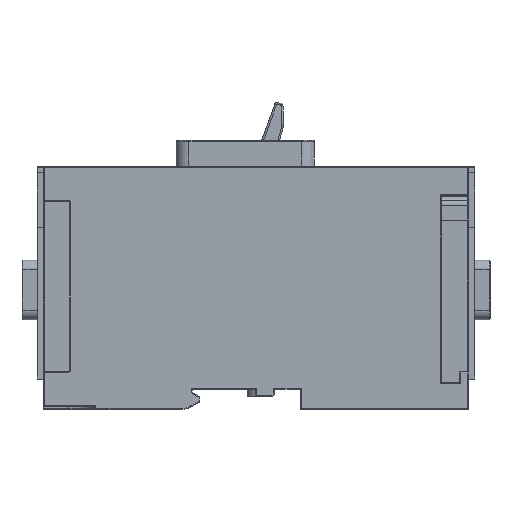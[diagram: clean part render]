
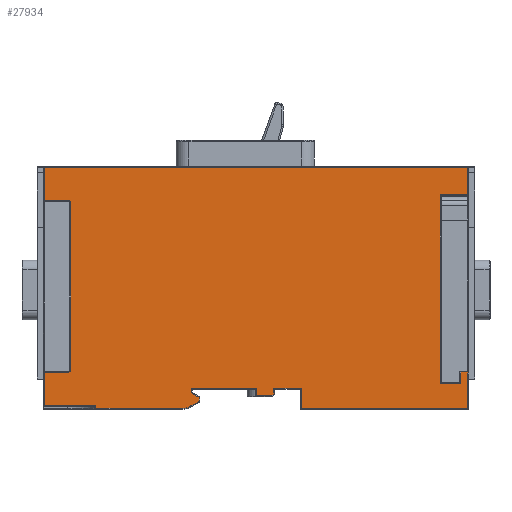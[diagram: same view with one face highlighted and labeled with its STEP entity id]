
A CAD part, left-side view. The second image highlights one B-rep face of the part: STEP entity #27934.
In plain terms, the highlighted planar face has unit normal (-1, 0, 0).
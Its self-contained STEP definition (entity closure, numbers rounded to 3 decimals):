
#3655=CARTESIAN_POINT('',(0.,101.087,5.));
#3656=DIRECTION('',(-1.,0.,0.));
#3657=DIRECTION('',(0.,0.,-1.));
#3658=AXIS2_PLACEMENT_3D('',#3655,#3656,#3657);
#3660=DIRECTION('',(0.,1.,0.));
#3661=VECTOR('',#3660,28.613);
#3662=CARTESIAN_POINT('',(0.,101.087,0.3));
#3663=LINE('',#3662,#3661);
#3664=DIRECTION('',(0.,0.,-1.));
#3665=VECTOR('',#3664,1.);
#3666=CARTESIAN_POINT('',(0.,129.7,1.3));
#3667=LINE('',#3666,#3665);
#3668=DIRECTION('',(0.,-1.,0.));
#3669=VECTOR('',#3668,17.);
#3670=CARTESIAN_POINT('',(0.,146.7,1.3));
#3671=LINE('',#3670,#3669);
#3672=DIRECTION('',(0.,0.,-1.));
#3673=VECTOR('',#3672,11.);
#3674=CARTESIAN_POINT('',(0.,146.7,12.3));
#3675=LINE('',#3674,#3673);
#3676=DIRECTION('',(0.,1.,0.));
#3677=VECTOR('',#3676,8.1);
#3678=CARTESIAN_POINT('',(0.,138.6,12.3));
#3679=LINE('',#3678,#3677);
#3680=CARTESIAN_POINT('',(0.,138.6,12.9));
#3681=DIRECTION('',(1.,0.,0.));
#3682=DIRECTION('',(0.,-1.,0.));
#3683=AXIS2_PLACEMENT_3D('',#3680,#3681,#3682);
#3685=DIRECTION('',(0.,0.,-1.));
#3686=VECTOR('',#3685,55.1);
#3687=CARTESIAN_POINT('',(0.,138.,68.));
#3688=LINE('',#3687,#3686);
#3689=CARTESIAN_POINT('',(0.,138.6,68.));
#3690=DIRECTION('',(1.,0.,0.));
#3691=DIRECTION('',(0.,0.,1.));
#3692=AXIS2_PLACEMENT_3D('',#3689,#3690,#3691);
#3694=DIRECTION('',(0.,-1.,0.));
#3695=VECTOR('',#3694,8.1);
#3696=CARTESIAN_POINT('',(0.,146.7,68.6));
#3697=LINE('',#3696,#3695);
#3698=DIRECTION('',(0.,0.,1.));
#3699=VECTOR('',#3698,11.1);
#3700=CARTESIAN_POINT('',(0.,146.7,68.6));
#3701=LINE('',#3700,#3699);
#3702=DIRECTION('',(0.,1.,0.));
#3703=VECTOR('',#3702,139.4);
#3704=CARTESIAN_POINT('',(0.,7.3,79.7));
#3705=LINE('',#3704,#3703);
#3706=DIRECTION('',(0.,0.,-1.));
#3707=VECTOR('',#3706,9.1);
#3708=CARTESIAN_POINT('',(0.,7.3,79.7));
#3709=LINE('',#3708,#3707);
#3710=DIRECTION('',(0.,-1.,0.));
#3711=VECTOR('',#3710,9.);
#3712=CARTESIAN_POINT('',(0.,16.3,70.6));
#3713=LINE('',#3712,#3711);
#3714=DIRECTION('',(0.,-1.,0.));
#3715=VECTOR('',#3714,6.6);
#3716=CARTESIAN_POINT('',(0.,16.3,8.511));
#3717=LINE('',#3716,#3715);
#3718=DIRECTION('',(0.,0.,-1.));
#3719=VECTOR('',#3718,3.8);
#3720=CARTESIAN_POINT('',(0.,9.7,12.311));
#3721=LINE('',#3720,#3719);
#3722=DIRECTION('',(0.,1.,0.));
#3723=VECTOR('',#3722,2.4);
#3724=CARTESIAN_POINT('',(0.,7.3,12.311));
#3725=LINE('',#3724,#3723);
#3726=DIRECTION('',(0.,0.,1.));
#3727=VECTOR('',#3726,12.011);
#3728=CARTESIAN_POINT('',(0.,7.3,0.3));
#3729=LINE('',#3728,#3727);
#3730=DIRECTION('',(0.,1.,0.));
#3731=VECTOR('',#3730,54.8);
#3732=CARTESIAN_POINT('',(0.,7.3,0.3));
#3733=LINE('',#3732,#3731);
#3734=DIRECTION('',(0.,0.,-1.));
#3735=VECTOR('',#3734,6.596);
#3736=CARTESIAN_POINT('',(0.,62.1,6.896));
#3737=LINE('',#3736,#3735);
#3738=DIRECTION('',(0.,-1.,-0.002));
#3739=VECTOR('',#3738,9.05);
#3740=CARTESIAN_POINT('',(0.,71.15,6.912));
#3741=LINE('',#3740,#3739);
#3742=DIRECTION('',(0.,0.,1.));
#3743=VECTOR('',#3742,1.876);
#3744=CARTESIAN_POINT('',(0.,71.15,5.035));
#3745=LINE('',#3744,#3743);
#3746=DIRECTION('',(0.,-0.707,0.707));
#3747=VECTOR('',#3746,0.883);
#3748=CARTESIAN_POINT('',(0.,71.774,4.411));
#3749=LINE('',#3748,#3747);
#3750=DIRECTION('',(0.,-1.,0.));
#3751=VECTOR('',#3750,5.026);
#3752=CARTESIAN_POINT('',(0.,76.8,4.411));
#3753=LINE('',#3752,#3751);
#3754=DIRECTION('',(0.,0.,-1.));
#3755=VECTOR('',#3754,2.485);
#3756=CARTESIAN_POINT('',(0.,76.8,6.896));
#3757=LINE('',#3756,#3755);
#3758=DIRECTION('',(0.,1.,0.));
#3759=VECTOR('',#3758,21.5);
#3760=CARTESIAN_POINT('',(0.,76.8,6.896));
#3761=LINE('',#3760,#3759);
#3762=DIRECTION('',(0.,0.,1.));
#3763=VECTOR('',#3762,1.455);
#3764=CARTESIAN_POINT('',(0.,98.3,5.441));
#3765=LINE('',#3764,#3763);
#3766=DIRECTION('',(0.,0.854,0.521));
#3767=VECTOR('',#3766,3.005);
#3768=CARTESIAN_POINT('',(0.,95.734,3.876));
#3769=LINE('',#3768,#3767);
#3770=DIRECTION('',(0.,0.,1.));
#3771=VECTOR('',#3770,1.203);
#3772=CARTESIAN_POINT('',(0.,95.734,2.673));
#3773=LINE('',#3772,#3771);
#3774=DIRECTION('',(0.,-0.865,0.502));
#3775=VECTOR('',#3774,3.461);
#3776=CARTESIAN_POINT('',(0.,98.727,0.935));
#3777=LINE('',#3776,#3775);
#3795=CARTESIAN_POINT('',(0.,129.7,1.3));
#13935=DIRECTION('',(0.,0.,1.));
#13936=VECTOR('',#13935,62.089);
#13937=CARTESIAN_POINT('',(0.,16.3,8.511));
#13938=LINE('',#13937,#13936);
#13946=CARTESIAN_POINT('',(0.,16.3,70.6));
#21538=CARTESIAN_POINT('',(0.,7.3,79.7));
#21539=VERTEX_POINT('',#21538);
#21540=CARTESIAN_POINT('',(0.,7.3,0.3));
#21541=CARTESIAN_POINT('',(0.,62.1,0.3));
#21542=VERTEX_POINT('',#21540);
#21543=VERTEX_POINT('',#21541);
#21548=CARTESIAN_POINT('',(0.,146.7,79.7));
#21550=VERTEX_POINT('',#21548);
#21559=CARTESIAN_POINT('',(0.,95.734,2.673));
#21560=CARTESIAN_POINT('',(0.,95.734,3.876));
#21561=VERTEX_POINT('',#21559);
#21562=VERTEX_POINT('',#21560);
#21564=CARTESIAN_POINT('',(0.,98.3,5.441));
#21565=VERTEX_POINT('',#21564);
#21570=CARTESIAN_POINT('',(0.,98.3,6.896));
#21571=VERTEX_POINT('',#21570);
#21576=CARTESIAN_POINT('',(0.,76.8,4.411));
#21577=CARTESIAN_POINT('',(0.,71.774,4.411));
#21578=VERTEX_POINT('',#21576);
#21579=VERTEX_POINT('',#21577);
#21582=CARTESIAN_POINT('',(0.,71.15,5.035));
#21583=VERTEX_POINT('',#21582);
#21584=CARTESIAN_POINT('',(0.,71.15,6.912));
#21585=VERTEX_POINT('',#21584);
#21590=CARTESIAN_POINT('',(0.,62.1,6.896));
#21591=VERTEX_POINT('',#21590);
#21633=VERTEX_POINT('',#3795);
#23240=CARTESIAN_POINT('',(0.,129.7,0.3));
#23242=VERTEX_POINT('',#23240);
#23265=CARTESIAN_POINT('',(0.,146.7,68.6));
#23266=VERTEX_POINT('',#23265);
#23267=CARTESIAN_POINT('',(0.,138.6,68.6));
#23268=VERTEX_POINT('',#23267);
#23271=CARTESIAN_POINT('',(0.,138.,68.));
#23272=VERTEX_POINT('',#23271);
#23275=CARTESIAN_POINT('',(0.,138.,12.9));
#23276=VERTEX_POINT('',#23275);
#23279=CARTESIAN_POINT('',(0.,138.6,12.3));
#23280=VERTEX_POINT('',#23279);
#23283=CARTESIAN_POINT('',(0.,146.7,12.3));
#23284=VERTEX_POINT('',#23283);
#23325=CARTESIAN_POINT('',(0.,146.7,1.3));
#23326=VERTEX_POINT('',#23325);
#23361=VERTEX_POINT('',#13946);
#23423=CARTESIAN_POINT('',(0.,7.3,70.6));
#23425=VERTEX_POINT('',#23423);
#23460=CARTESIAN_POINT('',(0.,16.3,8.511));
#23461=CARTESIAN_POINT('',(0.,9.7,8.511));
#23462=VERTEX_POINT('',#23460);
#23463=VERTEX_POINT('',#23461);
#23464=CARTESIAN_POINT('',(0.,9.7,12.311));
#23465=VERTEX_POINT('',#23464);
#23470=CARTESIAN_POINT('',(0.,7.3,12.311));
#23471=VERTEX_POINT('',#23470);
#23607=CARTESIAN_POINT('',(0.,101.087,0.3));
#23608=VERTEX_POINT('',#23607);
#23609=CARTESIAN_POINT('',(0.,98.727,
0.935));
#23610=VERTEX_POINT('',#23609);
#23765=CARTESIAN_POINT('',(0.,76.8,6.896));
#23766=VERTEX_POINT('',#23765);
#27867=CARTESIAN_POINT('',(0.,154.,0.));
#27868=DIRECTION('',(-1.,0.,0.));
#27869=DIRECTION('',(0.,-1.,0.));
#27870=AXIS2_PLACEMENT_3D('',#27867,#27868,#27869);
#27871=PLANE('',#27870);
#27872=ORIENTED_EDGE('',*,*,#27859,.F.);
#27873=ORIENTED_EDGE('',*,*,#27848,.T.);
#27875=ORIENTED_EDGE('',*,*,#27874,.F.);
#27877=ORIENTED_EDGE('',*,*,#27876,.F.);
#27879=ORIENTED_EDGE('',*,*,#27878,.F.);
#27881=ORIENTED_EDGE('',*,*,#27880,.F.);
#27883=ORIENTED_EDGE('',*,*,#27882,.F.);
#27885=ORIENTED_EDGE('',*,*,#27884,.F.);
#27887=ORIENTED_EDGE('',*,*,#27886,.F.);
#27889=ORIENTED_EDGE('',*,*,#27888,.F.);
#27891=ORIENTED_EDGE('',*,*,#27890,.T.);
#27893=ORIENTED_EDGE('',*,*,#27892,.F.);
#27895=ORIENTED_EDGE('',*,*,#27894,.T.);
#27897=ORIENTED_EDGE('',*,*,#27896,.F.);
#27899=ORIENTED_EDGE('',*,*,#27898,.F.);
#27901=ORIENTED_EDGE('',*,*,#27900,.T.);
#27903=ORIENTED_EDGE('',*,*,#27902,.F.);
#27905=ORIENTED_EDGE('',*,*,#27904,.F.);
#27907=ORIENTED_EDGE('',*,*,#27906,.F.);
#27909=ORIENTED_EDGE('',*,*,#27908,.T.);
#27911=ORIENTED_EDGE('',*,*,#27910,.F.);
#27913=ORIENTED_EDGE('',*,*,#27912,.F.);
#27915=ORIENTED_EDGE('',*,*,#27914,.F.);
#27917=ORIENTED_EDGE('',*,*,#27916,.F.);
#27919=ORIENTED_EDGE('',*,*,#27918,.F.);
#27921=ORIENTED_EDGE('',*,*,#27920,.F.);
#27923=ORIENTED_EDGE('',*,*,#27922,.T.);
#27925=ORIENTED_EDGE('',*,*,#27924,.F.);
#27927=ORIENTED_EDGE('',*,*,#27926,.F.);
#27929=ORIENTED_EDGE('',*,*,#27928,.F.);
#27931=ORIENTED_EDGE('',*,*,#27930,.F.);
#27932=EDGE_LOOP('',(#27872,#27873,#27875,#27877,#27879,#27881,#27883,#27885,
#27887,#27889,#27891,#27893,#27895,#27897,#27899,#27901,#27903,#27905,#27907,
#27909,#27911,#27913,#27915,#27917,#27919,#27921,#27923,#27925,#27927,#27929,
#27931));
#27933=FACE_OUTER_BOUND('',#27932,.F.);
#27934=ADVANCED_FACE('',(#27933),#27871,.T.);
#3659=CIRCLE('',#3658,4.7);
#3684=CIRCLE('',#3683,0.6);
#3693=CIRCLE('',#3692,0.6);
#27848=EDGE_CURVE('',#23608,#23242,#3663,.T.);
#27859=EDGE_CURVE('',#23608,#23610,#3659,.T.);
#27874=EDGE_CURVE('',#21633,#23242,#3667,.T.);
#27876=EDGE_CURVE('',#23326,#21633,#3671,.T.);
#27878=EDGE_CURVE('',#23284,#23326,#3675,.T.);
#27880=EDGE_CURVE('',#23280,#23284,#3679,.T.);
#27882=EDGE_CURVE('',#23276,#23280,#3684,.T.);
#27884=EDGE_CURVE('',#23272,#23276,#3688,.T.);
#27886=EDGE_CURVE('',#23268,#23272,#3693,.T.);
#27888=EDGE_CURVE('',#23266,#23268,#3697,.T.);
#27890=EDGE_CURVE('',#23266,#21550,#3701,.T.);
#27892=EDGE_CURVE('',#21539,#21550,#3705,.T.);
#27894=EDGE_CURVE('',#21539,#23425,#3709,.T.);
#27896=EDGE_CURVE('',#23361,#23425,#3713,.T.);
#27898=EDGE_CURVE('',#23462,#23361,#13938,.T.);
#27900=EDGE_CURVE('',#23462,#23463,#3717,.T.);
#27902=EDGE_CURVE('',#23465,#23463,#3721,.T.);
#27904=EDGE_CURVE('',#23471,#23465,#3725,.T.);
#27906=EDGE_CURVE('',#21542,#23471,#3729,.T.);
#27908=EDGE_CURVE('',#21542,#21543,#3733,.T.);
#27910=EDGE_CURVE('',#21591,#21543,#3737,.T.);
#27912=EDGE_CURVE('',#21585,#21591,#3741,.T.);
#27914=EDGE_CURVE('',#21583,#21585,#3745,.T.);
#27916=EDGE_CURVE('',#21579,#21583,#3749,.T.);
#27918=EDGE_CURVE('',#21578,#21579,#3753,.T.);
#27920=EDGE_CURVE('',#23766,#21578,#3757,.T.);
#27922=EDGE_CURVE('',#23766,#21571,#3761,.T.);
#27924=EDGE_CURVE('',#21565,#21571,#3765,.T.);
#27926=EDGE_CURVE('',#21562,#21565,#3769,.T.);
#27928=EDGE_CURVE('',#21561,#21562,#3773,.T.);
#27930=EDGE_CURVE('',#23610,#21561,#3777,.T.);
